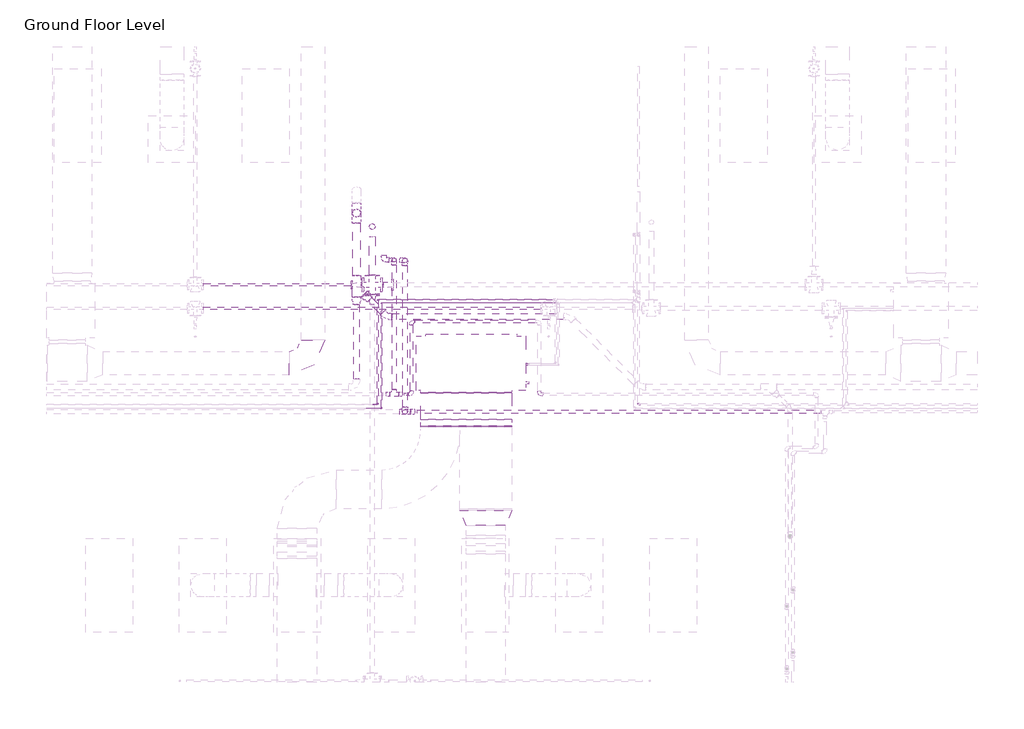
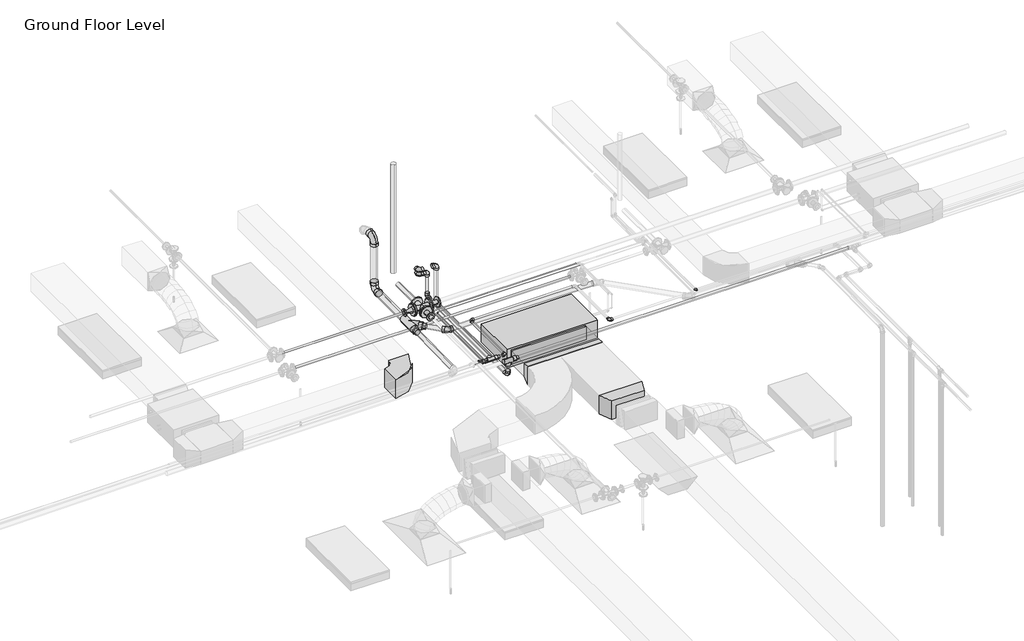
# One storey, part 52 of 74: 33 pipe fittings, 28 pipe segments, 4 duct fittings, 2 duct segments, 1 proxy.
"""IFC4 building model written with IfcOpenShell, lengths in millimetres."""

from ifc_helpers import new_model, si_unit, point, frame, frame_2d, origin, place, context, project, spatial, polyline, circle_curve, trimmed, segment, composite_curve, outline, extrude, transform, mapped, element, save
from components import fcu_daikin_iu_5a1bd61d, m_rectangular_elbow_radius_1_w_618da153, m_rectangular_transition_angle_45_degree_0ac038db, m_rectangular_transition_angle_45_degree_2e6f116c, m_rectangular_transition_angle_45_degree_bb273bf1, m_bend_pvc_sch_40_dwv_standard_bd716fa2, m_bend_pvc_sch_40_dwv_standard_fbb643c2, m_bend_pvc_sch_40_dwv_standard_bfb77a87, m_cross_flanged_cs_class_150_standard_72237f6b, m_elbow_generic_standard_a088f956, m_elbow_generic_standard_2a704253, m_elbow_generic_standard_73005802, m_elbow_generic_standard_65e6739a, m_reducer_flanged_cs_class_150_standard_50093ec8, m_reducer_flanged_cs_class_150_standard_fb6801e4, m_reducer_flanged_cs_class_150_standard_aac2962f, m_reducer_pvc_sch_40_dwv_standard_93e50943, m_tee_pvc_sch_40_standard_4c5b037c, standard_517a5a8d, standard_cd25fed3, standard_5079833c, standard_bbae78af, standard_a995ec02, standard_57727813, standard_77f9104c, standard_102e5625

model = new_model("IFC4")

# Units and contexts
model_context = context("Model", 3, world=origin())
ifc_project = project(units=[si_unit("LENGTHUNIT", "METRE", prefix="MILLI")], contexts=[model_context])

# Site, building, storey
site = spatial("IfcSite", under=ifc_project)
building = spatial("IfcBuilding", under=site)
storey = spatial("IfcBuildingStorey", under=building, Name="Ground Floor Level", Elevation=900.0)

# Proxy
placement = place(None, origin())
fcu_daikin_iu_shape = fcu_daikin_iu_5a1bd61d(model_context)
element("IfcBuildingElementProxy", 1, Name="FCU-DAIKIN IU : 12.9kW, 230V/50Hz/1Ph", ObjectType="FCU-DAIKIN IU : 12.9kW, 230V/50Hz/1Ph", at=placement, inside=storey, context=model_context, shape_type="MappedRepresentation", body=[
    mapped(fcu_daikin_iu_shape, transform((-4715.1910789, 14069.8153534, 3984.0925223), x_axis=(1.0, 0.0, 0.0), y_axis=(0.0, 1.0, 0.0), z_axis=(0.0, 0.0, 1.0))),
])

# Duct fittings
m_rectangular_elbow_radius_1_w_shape = m_rectangular_elbow_radius_1_w_618da153(model_context)
element("IfcDuctFitting", 2, ObjectType="M_Rectangular Elbow - Radius : 1 W", at=placement, inside=storey, context=model_context, shape_type="MappedRepresentation", body=[
    mapped(m_rectangular_elbow_radius_1_w_shape, transform((-6737.2327605, 14069.8153534, 4075.2872564), x_axis=(1.0, 0.0, 0.0), y_axis=(0.0, 1.0, 0.0), z_axis=(0.0, 0.0, 1.0))),
])
m_rectangular_transition_angle_45_degree_shape = m_rectangular_transition_angle_45_degree_0ac038db(model_context)
element("IfcDuctFitting", 3, ObjectType="M_Rectangular Transition - Angle : 45 Degree", at=placement, inside=storey, context=model_context, shape_type="MappedRepresentation", body=[
    mapped(m_rectangular_transition_angle_45_degree_shape, transform((-4528.6910789, 12192.414605, 4107.133239), x_axis=(0.0, -0.9999999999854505, 5.394345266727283e-06), y_axis=(1.0, 0.0, 0.0), z_axis=(0.0, 5.394345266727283e-06, 0.9999999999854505))),
])
m_rectangular_transition_angle_45_degree_2_shape = m_rectangular_transition_angle_45_degree_2e6f116c(model_context)
element("IfcDuctFitting", 4, ObjectType="M_Rectangular Transition - Angle : 45 Degree", at=placement, inside=storey, context=model_context, shape_type="MappedRepresentation", body=[
    mapped(m_rectangular_transition_angle_45_degree_2_shape, transform((-4778.6910789, 13694.4153534, 4150.0050223), x_axis=(0.0, -1.0, 0.0), y_axis=(1.0, 0.0, 0.0), z_axis=(0.0, 0.0, 1.0))),
])
m_rectangular_transition_angle_45_degree_3_shape = m_rectangular_transition_angle_45_degree_bb273bf1(model_context)
element("IfcDuctFitting", 5, ObjectType="M_Rectangular Transition - Angle : 45 Degree", at=placement, inside=storey, context=model_context, shape_type="MappedRepresentation", body=[
    mapped(m_rectangular_transition_angle_45_degree_3_shape, transform((-4778.6910789, 13354.5699657, 4150.0028095), x_axis=(0.0, -0.9999999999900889, -4.452214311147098e-06), y_axis=(1.0, 0.0, 0.0), z_axis=(0.0, -4.452214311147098e-06, 0.9999999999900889))),
])

# Duct segments
element("IfcDuctSegment", 6, ObjectType="Radius Elbows / Taps", at=placement, inside=storey, context=model_context, shape_type="SweptSolid", body=[
    extrude(outline(polyline([(-5359.6910789, 13694.083399), (-4197.6910789, 13694.083399), (-4197.6910789, 13354.5699657), (-5359.6910789, 13354.5699657), (-5359.6910789, 13694.083399)])), frame((0.0, 0.0, 4043.0050223), z_axis=(0.0, 0.0, 1.0), x_axis=(1.0, 0.0, 0.0)), (0.0, 0.0, 1.0), 214.0),
])
element("IfcDuctSegment", 7, ObjectType="Radius Elbows / Taps", at=placement, inside=storey, context=model_context, shape_type="SweptSolid", body=[
    extrude(outline(polyline([(0.0, -1162.0), (0.0, 0.0), (9.0109299, 0.0), (9.0109299, -1162.0), (0.0, -1162.0)])), frame((-5359.6910789, 13259.4862791, 3957.1425391), z_axis=(0.0, -0.00047283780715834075, 0.9999998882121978), x_axis=(0.0, 0.9999998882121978, 0.00047283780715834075)), (0.0, 0.0, 1.0), 300.0),
])

# Pipe fittings
m_bend_pvc_sch_40_dwv_standard_shape = m_bend_pvc_sch_40_dwv_standard_bd716fa2(model_context)
element("IfcPipeFitting", 8, ObjectType="M_Bend - PVC - Sch 40 - DWV : Standard", at=placement, inside=storey, context=model_context, shape_type="MappedRepresentation", body=[
    mapped(m_bend_pvc_sch_40_dwv_standard_shape, transform((-6179.1770144, 15988.8715849, 4179.1289206), x_axis=(0.0, 0.9999500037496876, 0.009999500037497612), y_axis=(0.0, -0.009999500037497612, 0.9999500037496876), z_axis=(1.0, 0.0, 0.0))),
])
m_bend_pvc_sch_40_dwv_standard_2_shape = m_bend_pvc_sch_40_dwv_standard_fbb643c2(model_context)
element("IfcPipeFitting", 9, ObjectType="M_Bend - PVC - Sch 40 - DWV : Standard", at=placement, inside=storey, context=model_context, shape_type="MappedRepresentation", body=[
    mapped(m_bend_pvc_sch_40_dwv_standard_2_shape, transform((-5796.171114, 14668.7334723, 4163.0722858), x_axis=(0.7069124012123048, -0.7071711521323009, -0.013557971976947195), y_axis=(0.7072304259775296, 0.7069828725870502, -0.0005851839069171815), z_axis=(0.009999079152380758, -0.00917493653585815, 0.999907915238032))),
])
m_bend_pvc_sch_40_dwv_standard_3_shape = m_bend_pvc_sch_40_dwv_standard_bfb77a87(model_context)
element("IfcPipeFitting", 10, ObjectType="M_Bend - PVC - Sch 40 - DWV : Standard", at=placement, inside=storey, context=model_context, shape_type="MappedRepresentation", body=[
    mapped(m_bend_pvc_sch_40_dwv_standard_3_shape, transform((-6179.1776394, 15988.874234, 5027.5258857), x_axis=(-4.882554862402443e-06, 2.069385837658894e-05, 0.9999999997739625), y_axis=(4.892659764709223e-08, 0.9999999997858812, -2.0693858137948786e-05), z_axis=(-0.9999999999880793, 4.8825558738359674e-08, -4.882555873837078e-06))),
])
m_cross_flanged_cs_class_150_standard_shape = m_cross_flanged_cs_class_150_standard_72237f6b(model_context)
element("IfcPipeFitting", 11, ObjectType="M_Cross - Flanged - CS - Class 150 : Standard", at=placement, inside=storey, context=model_context, shape_type="MappedRepresentation", body=[
    mapped(m_cross_flanged_cs_class_150_standard_shape, transform((-5978.130502, 15073.2009828, 4360.0), x_axis=(-1.0, 0.0, 0.0), y_axis=(0.0, -1.0, 0.0), z_axis=(0.0, 0.0, 1.0))),
])
m_elbow_generic_standard_shape = m_elbow_generic_standard_a088f956(model_context)
element("IfcPipeFitting", 12, ObjectType="M_Elbow - Generic : Standard", at=placement, inside=storey, context=model_context, shape_type="MappedRepresentation", body=[
    mapped(m_elbow_generic_standard_shape, transform((-5907.05663, 14885.6024145, 4380.0), x_axis=(-1.0, 0.0, 0.0), y_axis=(0.0, -1.0, 0.0), z_axis=(0.0, 0.0, 1.0))),
])
element("IfcPipeFitting", 13, ObjectType="M_Elbow - Generic : Standard", at=placement, inside=storey, context=model_context, shape_type="MappedRepresentation", body=[
    mapped(m_elbow_generic_standard_shape, transform((-5907.05663, 13545.2153534, 4380.0), x_axis=(1.0, 0.0, 0.0), y_axis=(0.0, 1.0, 0.0), z_axis=(0.0, 0.0, 1.0))),
])
m_elbow_generic_standard_2_shape = m_elbow_generic_standard_2a704253(model_context)
element("IfcPipeFitting", 14, ObjectType="M_Elbow - Generic : Standard", at=placement, inside=storey, context=model_context, shape_type="MappedRepresentation", body=[
    mapped(m_elbow_generic_standard_2_shape, transform((-5859.8931643, 14844.4055749, 4365.0), x_axis=(-1.0, 0.0, 0.0), y_axis=(0.0, -1.0, 0.0), z_axis=(0.0, 0.0, 1.0))),
])
element("IfcPipeFitting", 15, ObjectType="M_Elbow - Generic : Standard", at=placement, inside=storey, context=model_context, shape_type="MappedRepresentation", body=[
    mapped(m_elbow_generic_standard_2_shape, transform((-5859.8931643, 13494.0185138, 4393.0), x_axis=(1.0, 0.0, 0.0), y_axis=(0.0, 0.0, -1.0), z_axis=(0.0, 1.0, 0.0))),
])
element("IfcPipeFitting", 16, ObjectType="M_Elbow - Generic : Standard", at=placement, inside=storey, context=model_context, shape_type="MappedRepresentation", body=[
    mapped(m_elbow_generic_standard_2_shape, transform((-5859.8931643, 13494.0185138, 4365.0), x_axis=(0.0, -1.0, 0.0), y_axis=(0.0, 0.0, 1.0), z_axis=(-1.0, 0.0, 0.0))),
])
m_elbow_generic_standard_3_shape = m_elbow_generic_standard_73005802(model_context)
element("IfcPipeFitting", 17, ObjectType="M_Elbow - Generic : Standard", at=placement, inside=storey, context=model_context, shape_type="MappedRepresentation", body=[
    mapped(m_elbow_generic_standard_3_shape, transform((-2579.6952605, 13545.2153534, 4380.0), x_axis=(0.0, -1.0, 0.0), y_axis=(1.0, 0.0, 0.0), z_axis=(0.0, 0.0, 1.0))),
])
m_elbow_generic_standard_4_shape = m_elbow_generic_standard_65e6739a(model_context)
element("IfcPipeFitting", 18, ObjectType="M_Elbow - Generic : Standard", at=placement, inside=storey, context=model_context, shape_type="MappedRepresentation", body=[
    mapped(m_elbow_generic_standard_4_shape, transform((-5961.4046602, 13545.2153534, 4392.0), x_axis=(1.0, 0.0, 0.0), y_axis=(0.0, 0.0, -1.0), z_axis=(0.0, 1.0, 0.0))),
])
element("IfcPipeFitting", 19, ObjectType="M_Elbow - Generic : Standard", at=placement, inside=storey, context=model_context, shape_type="MappedRepresentation", body=[
    mapped(m_elbow_generic_standard_4_shape, transform((-5949.4046602, 13545.2153534, 4380.0), x_axis=(0.7071067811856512, 0.0, -0.7071067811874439), y_axis=(0.7071067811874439, 0.0, 0.7071067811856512), z_axis=(0.0, -1.0, 0.0))),
])
m_reducer_flanged_cs_class_150_standard_shape = m_reducer_flanged_cs_class_150_standard_50093ec8(model_context)
element("IfcPipeFitting", 20, ObjectType="M_Reducer - Flanged - CS - Class 150 : Standard", at=placement, inside=storey, context=model_context, shape_type="MappedRepresentation", body=[
    mapped(m_reducer_flanged_cs_class_150_standard_shape, transform((-5851.130502, 15073.2009828, 4360.0), x_axis=(1.0, 0.0, 0.0), y_axis=(0.0, 1.0, 0.0), z_axis=(0.0, 0.0, 1.0))),
])
m_reducer_flanged_cs_class_150_standard_2_shape = m_reducer_flanged_cs_class_150_standard_fb6801e4(model_context)
element("IfcPipeFitting", 21, ObjectType="M_Reducer - Flanged - CS - Class 150 : Standard", at=placement, inside=storey, context=model_context, shape_type="MappedRepresentation", body=[
    mapped(m_reducer_flanged_cs_class_150_standard_2_shape, transform((-6105.130502, 15073.2009828, 4360.0), x_axis=(-1.0, 0.0, 0.0), y_axis=(0.0, -1.0, 0.0), z_axis=(0.0, 0.0, 1.0))),
])
m_reducer_flanged_cs_class_150_standard_3_shape = m_reducer_flanged_cs_class_150_standard_aac2962f(model_context)
element("IfcPipeFitting", 22, ObjectType="M_Reducer - Flanged - CS - Class 150 : Standard", at=placement, inside=storey, context=model_context, shape_type="MappedRepresentation", body=[
    mapped(m_reducer_flanged_cs_class_150_standard_3_shape, transform((-5978.130502, 14946.2009828, 4360.0), x_axis=(0.0, -1.0, 0.0), y_axis=(1.0, 0.0, 0.0), z_axis=(0.0, 0.0, 1.0))),
])
m_reducer_pvc_sch_40_dwv_standard_shape = m_reducer_pvc_sch_40_dwv_standard_93e50943(model_context)
element("IfcPipeFitting", 23, ObjectType="M_Reducer - PVC - Sch 40 - DWV : Standard", at=placement, inside=storey, context=model_context, shape_type="MappedRepresentation", body=[
    mapped(m_reducer_pvc_sch_40_dwv_standard_shape, transform((-6179.1770144, 14819.9179815, 4167.4393846), x_axis=(0.0, 0.9999500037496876, 0.009999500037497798), y_axis=(-1.0000000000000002, 0.0, 0.0), z_axis=(0.0, -0.009999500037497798, 0.9999500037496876))),
])
element("IfcPipeFitting", 24, ObjectType="M_Reducer - PVC - Sch 40 - DWV : Standard", at=placement, inside=storey, context=model_context, shape_type="MappedRepresentation", body=[
    mapped(m_reducer_pvc_sch_40_dwv_standard_shape, transform((-6010.7168995, 14883.3577879, 4167.1870895), x_axis=(-0.7069124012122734, 0.7071711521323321, 0.01355797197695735), y_axis=(-0.7072361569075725, -0.7069773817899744, -2.1519182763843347e-08), z_axis=(0.00958516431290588, -0.009588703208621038, 0.9999080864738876))),
])
m_tee_pvc_sch_40_standard_shape = m_tee_pvc_sch_40_standard_4c5b037c(model_context)
element("IfcPipeFitting", 25, ObjectType="M_Tee - PVC - Sch 40 : Standard", at=placement, inside=storey, context=model_context, shape_type="MappedRepresentation", body=[
    mapped(m_tee_pvc_sch_40_standard_shape, transform((-6179.1770144, 15051.7796868, 4169.7580016), x_axis=(0.0, 0.9999500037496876, 0.009999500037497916), y_axis=(-0.9999972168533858, -2.3591797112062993e-05, 0.0023591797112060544), z_axis=(0.0023592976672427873, -0.009999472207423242, 0.9999472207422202))),
])
standard_shape = standard_517a5a8d(model_context)
element("IfcPipeFitting", 26, ObjectType="M_Elbow - CPVC - Sch 40 : Standard", at=placement, inside=storey, context=model_context, shape_type="MappedRepresentation", body=[
    mapped(standard_shape, transform((-5476.1871015, 13675.2153534, 4250.0), x_axis=(1.0, 0.0, 0.0), y_axis=(0.0, 1.0, 0.0), z_axis=(0.0, 0.0, 1.0))),
])
element("IfcPipeFitting", 27, ObjectType="M_Elbow - CPVC - Sch 40 : Standard", at=placement, inside=storey, context=model_context, shape_type="MappedRepresentation", body=[
    mapped(standard_shape, transform((-5476.1871015, 14603.43487, 4250.0), x_axis=(-1.0, 0.0, 0.0), y_axis=(0.0, -1.0, 0.0), z_axis=(0.0, 0.0, 1.0))),
])
element("IfcPipeFitting", 28, ObjectType="M_Elbow - CPVC - Sch 40 : Standard", at=placement, inside=storey, context=model_context, shape_type="MappedRepresentation", body=[
    mapped(standard_shape, transform((-3846.4489567, 13675.2153534, 4250.0), x_axis=(0.0, -1.0, 0.0), y_axis=(1.0, 0.0, 0.0), z_axis=(0.0, 0.0, 1.0))),
])
standard_2_shape = standard_cd25fed3(model_context)
element("IfcPipeFitting", 29, ObjectType="M_Tee - CPVC - Sch 40 : Standard", at=placement, inside=storey, context=model_context, shape_type="MappedRepresentation", body=[
    mapped(standard_2_shape, transform((-5560.8713756, 13449.9865561, 4315.0), x_axis=(1.0, 0.0, 0.0), y_axis=(0.0, 0.0, 1.0), z_axis=(0.0, -1.0, 0.0))),
])
standard_3_shape = standard_5079833c(model_context)
element("IfcPipeFitting", 30, ObjectType="M_Coupling Reducing - CPVC - Sch 40 : Standard", at=placement, inside=storey, context=model_context, shape_type="MappedRepresentation", body=[
    mapped(standard_3_shape, transform((-5486.9943636, 13449.9865561, 4315.0), x_axis=(1.0, 0.0, 0.0), y_axis=(0.0, 1.0, 0.0), z_axis=(0.0, 0.0, 1.0))),
])
standard_4_shape = standard_bbae78af(model_context)
element("IfcPipeFitting", 31, ObjectType="M_Tee - CPVC - Sch 40 : Standard", at=placement, inside=storey, context=model_context, shape_type="MappedRepresentation", body=[
    mapped(standard_4_shape, transform((-5698.3060147, 13675.2153534, 4250.0), x_axis=(1.0, 0.0, 0.0), y_axis=(0.0, -1.0, 0.0), z_axis=(0.0, 0.0, -1.0))),
])
standard_5_shape = standard_a995ec02(model_context)
element("IfcPipeFitting", 32, ObjectType="M_Coupling Reducing - CPVC - Sch 40 : Standard", at=placement, inside=storey, context=model_context, shape_type="MappedRepresentation", body=[
    mapped(standard_5_shape, transform((-5757.0562147, 13675.2153534, 4250.0), x_axis=(-1.0, 0.0, 0.0), y_axis=(0.0, -1.0, 0.0), z_axis=(0.0, 0.0, 1.0))),
])
standard_6_shape = standard_57727813(model_context)
element("IfcPipeFitting", 33, ObjectType="M_Elbow - CPVC - Sch 40 : Standard", at=placement, inside=storey, context=model_context, shape_type="MappedRepresentation", body=[
    mapped(standard_6_shape, transform((-5560.8713756, 15385.5016509, 4719.8375), x_axis=(0.0, 0.0, 1.0), y_axis=(-0.997564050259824, 0.06975647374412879, 0.0), z_axis=(-0.06975647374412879, -0.997564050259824, 0.0))),
])
element("IfcPipeFitting", 34, ObjectType="M_Elbow - CPVC - Sch 40 : Standard", at=placement, inside=storey, context=model_context, shape_type="MappedRepresentation", body=[
    mapped(standard_6_shape, transform((-5831.0029399, 15389.9865561, 4719.8375), x_axis=(0.0, -1.0, 0.0), y_axis=(1.0, 0.0, 0.0), z_axis=(0.0, 0.0, 1.0))),
])
element("IfcPipeFitting", 35, ObjectType="M_Elbow - CPVC - Sch 40 : Standard", at=placement, inside=storey, context=model_context, shape_type="MappedRepresentation", body=[
    mapped(standard_6_shape, transform((-5560.8713756, 15385.5016509, 4090.0), x_axis=(0.0, 0.0, -1.0), y_axis=(0.0, -1.0, 0.0), z_axis=(-1.0, 0.0, 0.0))),
])
element("IfcPipeFitting", 36, ObjectType="M_Elbow - CPVC - Sch 40 : Standard", at=placement, inside=storey, context=model_context, shape_type="MappedRepresentation", body=[
    mapped(standard_6_shape, transform((-5560.8713756, 13449.9865561, 4090.0), x_axis=(0.0, 0.0, -1.0), y_axis=(0.0, 1.0, 0.0), z_axis=(1.0, 0.0, 0.0))),
])
standard_7_shape = standard_77f9104c(model_context)
element("IfcPipeFitting", 37, ObjectType="M_Coupling Reducing - CPVC - Sch 40 : Standard", at=placement, inside=storey, context=model_context, shape_type="MappedRepresentation", body=[
    mapped(standard_7_shape, transform((-5639.5558147, 13675.2153534, 4250.0), x_axis=(1.0, 0.0, 0.0), y_axis=(0.0, 1.0, 0.0), z_axis=(0.0, 0.0, 1.0))),
])
standard_8_shape = standard_102e5625(model_context)
element("IfcPipeFitting", 38, ObjectType="M_Elbow - CPVC - Sch 40 : Standard", at=placement, inside=storey, context=model_context, shape_type="MappedRepresentation", body=[
    mapped(standard_8_shape, transform((-5698.3060147, 15389.9865561, 4250.0), x_axis=(0.0, 1.0, 0.0), y_axis=(0.0, 0.0, 1.0), z_axis=(1.0, 0.0, 0.0))),
])
element("IfcPipeFitting", 39, ObjectType="M_Elbow - CPVC - Sch 40 : Standard", at=placement, inside=storey, context=model_context, shape_type="MappedRepresentation", body=[
    mapped(standard_8_shape, transform((-5698.3060147, 15389.9865561, 4650.0), x_axis=(0.0, 0.0, 1.0), y_axis=(-1.0, 0.0, 0.0), z_axis=(0.0, -1.0, 0.0))),
])
element("IfcPipeFitting", 40, ObjectType="M_Elbow - CPVC - Sch 40 : Standard", at=placement, inside=storey, context=model_context, shape_type="MappedRepresentation", body=[
    mapped(standard_8_shape, transform((-5831.0029399, 15389.9865561, 4650.0), x_axis=(0.0, -1.0, 0.0), y_axis=(1.0, 0.0, 0.0), z_axis=(0.0, 0.0, 1.0))),
])

# Pipe segments
element("IfcPipeSegment", 41, ObjectType="CPVC", at=placement, inside=storey, context=model_context, shape_type="SweptSolid", body=[
    extrude(outline(composite_curve([segment(trimmed(circle_curve(frame_2d((13449.9865561, 4315.0)), 30.1625), [point((13419.8240561, 4315.0))], [point((13449.9865561, 4345.1625))], False, "CARTESIAN"), True, "CONTINUOUS"), segment(trimmed(circle_curve(frame_2d((13449.9865561, 4315.0)), 30.1625), [point((13449.9865561, 4345.1625))], [point((13480.1490561, 4315.0))], False, "CARTESIAN"), True, "CONTINUOUS"), segment(trimmed(circle_curve(frame_2d((13449.9865561, 4315.0)), 30.1625), [point((13480.1490561, 4315.0))], [point((13449.9865561, 4284.8375))], False, "CARTESIAN"), True, "CONTINUOUS"), segment(trimmed(circle_curve(frame_2d((13449.9865561, 4315.0)), 30.1625), [point((13449.9865561, 4284.8375))], [point((13419.8240561, 4315.0))], False, "CARTESIAN"), True, "CONTINUOUS")], self_intersect=False)), frame((-5494.1963756, 0.0, 0.0), z_axis=(1.0, 0.0, 0.0), x_axis=(0.0, 1.0, 0.0)), (0.0, 0.0, 1.0), 7.202012),
])
element("IfcPipeSegment", 42, ObjectType="CPVC", at=placement, inside=storey, context=model_context, shape_type="SweptSolid", body=[
    extrude(outline(composite_curve([segment(trimmed(circle_curve(frame_2d((4090.0, -5560.8713756)), 30.1625), [point((4090.0, -5591.0338756))], [point((4059.8375, -5560.8713756))], False, "CARTESIAN"), True, "CONTINUOUS"), segment(trimmed(circle_curve(frame_2d((4090.0, -5560.8713756)), 30.1625), [point((4059.8375, -5560.8713756))], [point((4090.0, -5530.7088756))], False, "CARTESIAN"), True, "CONTINUOUS"), segment(trimmed(circle_curve(frame_2d((4090.0, -5560.8713756)), 30.1625), [point((4090.0, -5530.7088756))], [point((4120.1625, -5560.8713756))], False, "CARTESIAN"), True, "CONTINUOUS"), segment(trimmed(circle_curve(frame_2d((4090.0, -5560.8713756)), 30.1625), [point((4120.1625, -5560.8713756))], [point((4090.0, -5591.0338756))], False, "CARTESIAN"), True, "CONTINUOUS")], self_intersect=False)), frame((0.0, 13514.2803061, 0.0), z_axis=(0.0, 1.0, 0.0), x_axis=(0.0, 0.0, 1.0)), (0.0, 0.0, 1.0), 1806.9275947),
])
element("IfcPipeSegment", 43, ObjectType="CPVC", at=placement, inside=storey, context=model_context, shape_type="SweptSolid", body=[
    extrude(outline(composite_curve([segment(trimmed(circle_curve(frame_2d((4250.0, -5698.3060147)), 24.13), [point((4250.0, -5674.1760147))], [point((4274.13, -5698.3060147))], False, "CARTESIAN"), True, "CONTINUOUS"), segment(trimmed(circle_curve(frame_2d((4250.0, -5698.3060147)), 24.13), [point((4274.13, -5698.3060147))], [point((4250.0, -5722.4360147))], False, "CARTESIAN"), True, "CONTINUOUS"), segment(trimmed(circle_curve(frame_2d((4250.0, -5698.3060147)), 24.13), [point((4250.0, -5722.4360147))], [point((4225.87, -5698.3060147))], False, "CARTESIAN"), True, "CONTINUOUS"), segment(trimmed(circle_curve(frame_2d((4250.0, -5698.3060147)), 24.13), [point((4225.87, -5698.3060147))], [point((4250.0, -5674.1760147))], False, "CARTESIAN"), True, "CONTINUOUS")], self_intersect=False)), frame((0.0, 13733.9655534, 0.0), z_axis=(0.0, 1.0, 0.0), x_axis=(0.0, 0.0, 1.0)), (0.0, 0.0, 1.0), 1593.3020527),
])
element("IfcPipeSegment", 44, ObjectType="CPVC", at=placement, inside=storey, context=model_context, shape_type="SweptSolid", body=[
    extrude(outline(composite_curve([segment(trimmed(circle_curve(frame_2d((13449.9865561, 4315.0)), 21.082), [point((13471.0685561, 4315.0))], [point((13449.9865561, 4293.918))], False, "CARTESIAN"), True, "CONTINUOUS"), segment(trimmed(circle_curve(frame_2d((13449.9865561, 4315.0)), 21.082), [point((13449.9865561, 4293.918))], [point((13428.9045561, 4315.0))], False, "CARTESIAN"), True, "CONTINUOUS"), segment(trimmed(circle_curve(frame_2d((13449.9865561, 4315.0)), 21.082), [point((13428.9045561, 4315.0))], [point((13449.9865561, 4336.082))], False, "CARTESIAN"), True, "CONTINUOUS"), segment(trimmed(circle_curve(frame_2d((13449.9865561, 4315.0)), 21.082), [point((13449.9865561, 4336.082))], [point((13471.0685561, 4315.0))], False, "CARTESIAN"), True, "CONTINUOUS")], self_intersect=False)), frame((-5401.6556136, 0.0, 0.0), z_axis=(1.0, 0.0, 0.0), x_axis=(0.0, 1.0, 0.0)), (0.0, 0.0, 1.0), 5150.4478531),
])
element("IfcPipeSegment", 45, ObjectType="CPVC", at=placement, inside=storey, context=model_context, shape_type="SweptSolid", body=[
    extrude(outline(composite_curve([segment(trimmed(circle_curve(frame_2d((-5698.3060147, 15389.9865561)), 24.13), [point((-5722.4360147, 15389.9865561))], [point((-5698.3060147, 15414.1165561))], False, "CARTESIAN"), True, "CONTINUOUS"), segment(trimmed(circle_curve(frame_2d((-5698.3060147, 15389.9865561)), 24.13), [point((-5698.3060147, 15414.1165561))], [point((-5674.1760147, 15389.9865561))], False, "CARTESIAN"), True, "CONTINUOUS"), segment(trimmed(circle_curve(frame_2d((-5698.3060147, 15389.9865561)), 24.13), [point((-5674.1760147, 15389.9865561))], [point((-5698.3060147, 15365.8565561))], False, "CARTESIAN"), True, "CONTINUOUS"), segment(trimmed(circle_curve(frame_2d((-5698.3060147, 15389.9865561)), 24.13), [point((-5698.3060147, 15365.8565561))], [point((-5722.4360147, 15389.9865561))], False, "CARTESIAN"), True, "CONTINUOUS")], self_intersect=False)), frame((0.0, 0.0, 4312.71895), z_axis=(0.0, 0.0, 1.0), x_axis=(1.0, 0.0, 0.0)), (0.0, 0.0, 1.0), 274.5621),
])
element("IfcPipeSegment", 46, ObjectType="CPVC", at=placement, inside=storey, context=model_context, shape_type="SweptSolid", body=[
    extrude(outline(composite_curve([segment(trimmed(circle_curve(frame_2d((-5560.8713756, 15385.5016509)), 30.1625), [point((-5591.0338756, 15385.5016509))], [point((-5560.8713756, 15415.6641509))], False, "CARTESIAN"), True, "CONTINUOUS"), segment(trimmed(circle_curve(frame_2d((-5560.8713756, 15385.5016509)), 30.1625), [point((-5560.8713756, 15415.6641509))], [point((-5530.7088756, 15385.5016509))], False, "CARTESIAN"), True, "CONTINUOUS"), segment(trimmed(circle_curve(frame_2d((-5560.8713756, 15385.5016509)), 30.1625), [point((-5530.7088756, 15385.5016509))], [point((-5560.8713756, 15355.3391509))], False, "CARTESIAN"), True, "CONTINUOUS"), segment(trimmed(circle_curve(frame_2d((-5560.8713756, 15385.5016509)), 30.1625), [point((-5560.8713756, 15355.3391509))], [point((-5591.0338756, 15385.5016509))], False, "CARTESIAN"), True, "CONTINUOUS")], self_intersect=False)), frame((0.0, 0.0, 4154.29375), z_axis=(0.0, 0.0, 1.0), x_axis=(1.0, 0.0, 0.0)), (0.0, 0.0, 1.0), 501.25),
])
element("IfcPipeSegment", 47, ObjectType="CPVC", at=placement, inside=storey, context=model_context, shape_type="SweptSolid", body=[
    extrude(outline(composite_curve([segment(trimmed(circle_curve(frame_2d((13675.2153534, 4250.0)), 16.7005), [point((13658.5148534, 4250.0))], [point((13675.2153534, 4266.7005))], False, "CARTESIAN"), True, "CONTINUOUS"), segment(trimmed(circle_curve(frame_2d((13675.2153534, 4250.0)), 16.7005), [point((13675.2153534, 4266.7005))], [point((13691.9158534, 4250.0))], False, "CARTESIAN"), True, "CONTINUOUS"), segment(trimmed(circle_curve(frame_2d((13675.2153534, 4250.0)), 16.7005), [point((13691.9158534, 4250.0))], [point((13675.2153534, 4233.2995))], False, "CARTESIAN"), True, "CONTINUOUS"), segment(trimmed(circle_curve(frame_2d((13675.2153534, 4250.0)), 16.7005), [point((13675.2153534, 4233.2995))], [point((13658.5148534, 4250.0))], False, "CARTESIAN"), True, "CONTINUOUS")], self_intersect=False)), frame((-5567.3569397, 0.0, 0.0), z_axis=(1.0, 0.0, 0.0), x_axis=(0.0, 1.0, 0.0)), (0.0, 0.0, 1.0), 47.9072882),
])
element("IfcPipeSegment", 48, ObjectType="CPVC", at=placement, inside=storey, context=model_context, shape_type="SweptSolid", body=[
    extrude(outline(composite_curve([segment(trimmed(circle_curve(frame_2d((4250.0, -5476.1871015)), 16.7005), [point((4250.0, -5459.4866015))], [point((4266.7005, -5476.1871015))], False, "CARTESIAN"), True, "CONTINUOUS"), segment(trimmed(circle_curve(frame_2d((4250.0, -5476.1871015)), 16.7005), [point((4266.7005, -5476.1871015))], [point((4250.0, -5492.8876015))], False, "CARTESIAN"), True, "CONTINUOUS"), segment(trimmed(circle_curve(frame_2d((4250.0, -5476.1871015)), 16.7005), [point((4250.0, -5492.8876015))], [point((4233.2995, -5476.1871015))], False, "CARTESIAN"), True, "CONTINUOUS"), segment(trimmed(circle_curve(frame_2d((4250.0, -5476.1871015)), 16.7005), [point((4233.2995, -5476.1871015))], [point((4250.0, -5459.4866015))], False, "CARTESIAN"), True, "CONTINUOUS")], self_intersect=False)), frame((0.0, 13718.4779034, 0.0), z_axis=(0.0, 1.0, 0.0), x_axis=(0.0, 0.0, 1.0)), (0.0, 0.0, 1.0), 841.6944166),
])
element("IfcPipeSegment", 49, ObjectType="CPVC", at=placement, inside=storey, context=model_context, shape_type="SweptSolid", body=[
    extrude(outline(composite_curve([segment(trimmed(circle_curve(frame_2d((14603.43487, 4250.0)), 16.7005), [point((14620.13537, 4250.0))], [point((14603.43487, 4233.2995))], False, "CARTESIAN"), True, "CONTINUOUS"), segment(trimmed(circle_curve(frame_2d((14603.43487, 4250.0)), 16.7005), [point((14603.43487, 4233.2995))], [point((14586.73437, 4250.0))], False, "CARTESIAN"), True, "CONTINUOUS"), segment(trimmed(circle_curve(frame_2d((14603.43487, 4250.0)), 16.7005), [point((14586.73437, 4250.0))], [point((14603.43487, 4266.7005))], False, "CARTESIAN"), True, "CONTINUOUS"), segment(trimmed(circle_curve(frame_2d((14603.43487, 4250.0)), 16.7005), [point((14603.43487, 4266.7005))], [point((14620.13537, 4250.0))], False, "CARTESIAN"), True, "CONTINUOUS")], self_intersect=False)), frame((-5432.9245515, 0.0, 0.0), z_axis=(1.0, 0.0, 0.0), x_axis=(0.0, 1.0, 0.0)), (0.0, 0.0, 1.0), 1543.2130448),
])
element("IfcPipeSegment", 50, ObjectType="CPVC", at=placement, inside=storey, context=model_context, shape_type="SweptSolid", body=[
    extrude(outline(composite_curve([segment(trimmed(circle_curve(frame_2d((-5560.8713756, 13449.9865561)), 30.1625), [point((-5530.7088756, 13449.9865561))], [point((-5560.8713756, 13419.8240561))], False, "CARTESIAN"), True, "CONTINUOUS"), segment(trimmed(circle_curve(frame_2d((-5560.8713756, 13449.9865561)), 30.1625), [point((-5560.8713756, 13419.8240561))], [point((-5591.0338756, 13449.9865561))], False, "CARTESIAN"), True, "CONTINUOUS"), segment(trimmed(circle_curve(frame_2d((-5560.8713756, 13449.9865561)), 30.1625), [point((-5591.0338756, 13449.9865561))], [point((-5560.8713756, 13480.1490561))], False, "CARTESIAN"), True, "CONTINUOUS"), segment(trimmed(circle_curve(frame_2d((-5560.8713756, 13449.9865561)), 30.1625), [point((-5560.8713756, 13480.1490561))], [point((-5530.7088756, 13449.9865561))], False, "CARTESIAN"), True, "CONTINUOUS")], self_intersect=False)), frame((0.0, 0.0, 4154.29375), z_axis=(0.0, 0.0, 1.0), x_axis=(1.0, 0.0, 0.0)), (0.0, 0.0, 1.0), 94.03125),
])
element("IfcPipeSegment", 51, ObjectType="Copper", at=placement, inside=storey, context=model_context, shape_type="SweptSolid", body=[
    extrude(outline(composite_curve([segment(trimmed(circle_curve(frame_2d((13494.0185138, 4393.0)), 3.35), [point((13490.6685138, 4393.0))], [point((13494.0185138, 4396.35))], False, "CARTESIAN"), True, "CONTINUOUS"), segment(trimmed(circle_curve(frame_2d((13494.0185138, 4393.0)), 3.35), [point((13494.0185138, 4396.35))], [point((13497.3685138, 4393.0))], False, "CARTESIAN"), True, "CONTINUOUS"), segment(trimmed(circle_curve(frame_2d((13494.0185138, 4393.0)), 3.35), [point((13497.3685138, 4393.0))], [point((13494.0185138, 4389.65))], False, "CARTESIAN"), True, "CONTINUOUS"), segment(trimmed(circle_curve(frame_2d((13494.0185138, 4393.0)), 3.35), [point((13494.0185138, 4389.65))], [point((13490.6685138, 4393.0))], False, "CARTESIAN"), True, "CONTINUOUS")], self_intersect=False)), frame((-6053.203103, 0.0, 0.0), z_axis=(1.0, 0.0, 0.0), x_axis=(0.0, 1.0, 0.0)), (0.0, 0.0, 1.0), 182.1724387),
])
element("IfcPipeSegment", 52, ObjectType="Copper", at=placement, inside=storey, context=model_context, shape_type="SweptSolid", body=[
    extrude(outline(composite_curve([segment(trimmed(circle_curve(frame_2d((4380.0, -5907.05663)), 6.5), [point((4380.0, -5900.55663))], [point((4386.5, -5907.05663))], False, "CARTESIAN"), True, "CONTINUOUS"), segment(trimmed(circle_curve(frame_2d((4380.0, -5907.05663)), 6.5), [point((4386.5, -5907.05663))], [point((4380.0, -5913.55663))], False, "CARTESIAN"), True, "CONTINUOUS"), segment(trimmed(circle_curve(frame_2d((4380.0, -5907.05663)), 6.5), [point((4380.0, -5913.55663))], [point((4373.5, -5907.05663))], False, "CARTESIAN"), True, "CONTINUOUS"), segment(trimmed(circle_curve(frame_2d((4380.0, -5907.05663)), 6.5), [point((4373.5, -5907.05663))], [point((4380.0, -5900.55663))], False, "CARTESIAN"), True, "CONTINUOUS")], self_intersect=False)), frame((0.0, 13559.5028534, 0.0), z_axis=(0.0, 1.0, 0.0), x_axis=(0.0, 0.0, 1.0)), (0.0, 0.0, 1.0), 1311.8120611),
])
element("IfcPipeSegment", 53, ObjectType="Copper", at=placement, inside=storey, context=model_context, shape_type="SweptSolid", body=[
    extrude(outline(composite_curve([segment(trimmed(circle_curve(frame_2d((4365.0, -5859.8931643)), 3.35), [point((4365.0, -5856.5431643))], [point((4368.35, -5859.8931643))], False, "CARTESIAN"), True, "CONTINUOUS"), segment(trimmed(circle_curve(frame_2d((4365.0, -5859.8931643)), 3.35), [point((4368.35, -5859.8931643))], [point((4365.0, -5863.2431643))], False, "CARTESIAN"), True, "CONTINUOUS"), segment(trimmed(circle_curve(frame_2d((4365.0, -5859.8931643)), 3.35), [point((4365.0, -5863.2431643))], [point((4361.65, -5859.8931643))], False, "CARTESIAN"), True, "CONTINUOUS"), segment(trimmed(circle_curve(frame_2d((4365.0, -5859.8931643)), 3.35), [point((4361.65, -5859.8931643))], [point((4365.0, -5856.5431643))], False, "CARTESIAN"), True, "CONTINUOUS")], self_intersect=False)), frame((0.0, 13505.1560138, 0.0), z_axis=(0.0, 1.0, 0.0), x_axis=(0.0, 0.0, 1.0)), (0.0, 0.0, 1.0), 1328.1120611),
])
element("IfcPipeSegment", 54, ObjectType="Copper", at=placement, inside=storey, context=model_context, shape_type="SweptSolid", body=[
    extrude(outline(composite_curve([segment(trimmed(circle_curve(frame_2d((14885.6024145, 4380.0)), 6.5), [point((14879.1024145, 4380.0))], [point((14885.6024145, 4386.5))], False, "CARTESIAN"), True, "CONTINUOUS"), segment(trimmed(circle_curve(frame_2d((14885.6024145, 4380.0)), 6.5), [point((14885.6024145, 4386.5))], [point((14892.1024145, 4380.0))], False, "CARTESIAN"), True, "CONTINUOUS"), segment(trimmed(circle_curve(frame_2d((14885.6024145, 4380.0)), 6.5), [point((14892.1024145, 4380.0))], [point((14885.6024145, 4373.5))], False, "CARTESIAN"), True, "CONTINUOUS"), segment(trimmed(circle_curve(frame_2d((14885.6024145, 4380.0)), 6.5), [point((14885.6024145, 4373.5))], [point((14879.1024145, 4380.0))], False, "CARTESIAN"), True, "CONTINUOUS")], self_intersect=False)), frame((-5892.76913, 0.0, 0.0), z_axis=(1.0, 0.0, 0.0), x_axis=(0.0, 1.0, 0.0)), (0.0, 0.0, 1.0), 2228.690551),
])
element("IfcPipeSegment", 55, ObjectType="Copper", at=placement, inside=storey, context=model_context, shape_type="SweptSolid", body=[
    extrude(outline(composite_curve([segment(trimmed(circle_curve(frame_2d((14844.4055749, 4365.0)), 3.35), [point((14847.7555749, 4365.0))], [point((14844.4055749, 4361.65))], False, "CARTESIAN"), True, "CONTINUOUS"), segment(trimmed(circle_curve(frame_2d((14844.4055749, 4365.0)), 3.35), [point((14844.4055749, 4361.65))], [point((14841.0555749, 4365.0))], False, "CARTESIAN"), True, "CONTINUOUS"), segment(trimmed(circle_curve(frame_2d((14844.4055749, 4365.0)), 3.35), [point((14841.0555749, 4365.0))], [point((14844.4055749, 4368.35))], False, "CARTESIAN"), True, "CONTINUOUS"), segment(trimmed(circle_curve(frame_2d((14844.4055749, 4365.0)), 3.35), [point((14844.4055749, 4368.35))], [point((14847.7555749, 4365.0))], False, "CARTESIAN"), True, "CONTINUOUS")], self_intersect=False)), frame((-5848.7556643, 0.0, 0.0), z_axis=(1.0, 0.0, 0.0), x_axis=(0.0, 1.0, 0.0)), (0.0, 0.0, 1.0), 2229.4583352),
])
element("IfcPipeSegment", 56, ObjectType="Copper", at=placement, inside=storey, context=model_context, shape_type="SweptSolid", body=[
    extrude(outline(composite_curve([segment(trimmed(circle_curve(frame_2d((-5859.8931643, 13494.0185138)), 3.35), [point((-5856.5431643, 13494.0185138))], [point((-5859.8931643, 13490.6685138))], False, "CARTESIAN"), True, "CONTINUOUS"), segment(trimmed(circle_curve(frame_2d((-5859.8931643, 13494.0185138)), 3.35), [point((-5859.8931643, 13490.6685138))], [point((-5863.2431643, 13494.0185138))], False, "CARTESIAN"), True, "CONTINUOUS"), segment(trimmed(circle_curve(frame_2d((-5859.8931643, 13494.0185138)), 3.35), [point((-5863.2431643, 13494.0185138))], [point((-5859.8931643, 13497.3685138))], False, "CARTESIAN"), True, "CONTINUOUS"), segment(trimmed(circle_curve(frame_2d((-5859.8931643, 13494.0185138)), 3.35), [point((-5859.8931643, 13497.3685138))], [point((-5856.5431643, 13494.0185138))], False, "CARTESIAN"), True, "CONTINUOUS")], self_intersect=False)), frame((0.0, 0.0, 4376.1375), z_axis=(0.0, 0.0, 1.0), x_axis=(1.0, 0.0, 0.0)), (0.0, 0.0, 1.0), 5.725),
])
element("IfcPipeSegment", 57, ObjectType="Copper", at=placement, inside=storey, context=model_context, shape_type="SweptSolid", body=[
    extrude(outline(composite_curve([segment(trimmed(circle_curve(frame_2d((0.0, -6.5)), 6.5), [point((0.0, -13.0))], [point((-6.5, -6.5))], False, "CARTESIAN"), True, "CONTINUOUS"), segment(trimmed(circle_curve(frame_2d((0.0, -6.5)), 6.5), [point((-6.5, -6.5))], [point((0.0, 0.0))], False, "CARTESIAN"), True, "CONTINUOUS"), segment(trimmed(circle_curve(frame_2d((0.0, -6.5)), 6.5), [point((0.0, 0.0))], [point((6.5, -6.5))], False, "CARTESIAN"), True, "CONTINUOUS"), segment(trimmed(circle_curve(frame_2d((0.0, -6.5)), 6.5), [point((6.5, -6.5))], [point((0.0, -13.0))], False, "CARTESIAN"), True, "CONTINUOUS")], self_intersect=False)), frame((-5953.5893721, 13551.7153534, 4384.1847119), z_axis=(-0.7071067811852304, 0.0, 0.7071067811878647), x_axis=(0.7071067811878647, 0.0, 0.7071067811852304)), (0.0, 0.0, 1.0), 5.1344102),
])
element("IfcPipeSegment", 58, ObjectType="Copper", at=placement, inside=storey, context=model_context, shape_type="SweptSolid", body=[
    extrude(outline(composite_curve([segment(trimmed(circle_curve(frame_2d((13545.2153534, 4380.0)), 6.5), [point((13551.7153534, 4380.0))], [point((13545.2153534, 4373.5))], False, "CARTESIAN"), True, "CONTINUOUS"), segment(trimmed(circle_curve(frame_2d((13545.2153534, 4380.0)), 6.5), [point((13545.2153534, 4373.5))], [point((13538.7153534, 4380.0))], False, "CARTESIAN"), True, "CONTINUOUS"), segment(trimmed(circle_curve(frame_2d((13545.2153534, 4380.0)), 6.5), [point((13538.7153534, 4380.0))], [point((13545.2153534, 4386.5))], False, "CARTESIAN"), True, "CONTINUOUS"), segment(trimmed(circle_curve(frame_2d((13545.2153534, 4380.0)), 6.5), [point((13545.2153534, 4386.5))], [point((13551.7153534, 4380.0))], False, "CARTESIAN"), True, "CONTINUOUS")], self_intersect=False)), frame((-5943.4865839, 0.0, 0.0), z_axis=(1.0, 0.0, 0.0), x_axis=(0.0, 1.0, 0.0)), (0.0, 0.0, 1.0), 22.1424539),
])
element("IfcPipeSegment", 59, ObjectType="PVC - DWV", at=placement, inside=storey, context=model_context, shape_type="SweptSolid", body=[
    extrude(outline(composite_curve([segment(trimmed(circle_curve(frame_2d((0.0, 50.7999999)), 50.8), [point((50.8, 50.7999999))], [point((0.0, 0.0))], False, "CARTESIAN"), True, "CONTINUOUS"), segment(trimmed(circle_curve(frame_2d((0.0, 50.7999999)), 50.8), [point((0.0, 0.0))], [point((-50.8, 50.7999999))], False, "CARTESIAN"), True, "CONTINUOUS"), segment(trimmed(circle_curve(frame_2d((0.0, 50.7999999)), 50.8), [point((-50.8, 50.7999999))], [point((0.0, 101.5999999))], False, "CARTESIAN"), True, "CONTINUOUS"), segment(trimmed(circle_curve(frame_2d((0.0, 50.7999999)), 50.8), [point((0.0, 101.5999999))], [point((50.8, 50.7999999))], False, "CARTESIAN"), True, "CONTINUOUS")], self_intersect=False)), frame((-6179.1770144, 15188.6920457, 4221.9296651), z_axis=(0.0, 0.9999500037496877, 0.009999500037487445), x_axis=(1.0, 0.0, 0.0)), (0.0, 0.0, 1.0), 671.6974847),
])
element("IfcPipeSegment", 60, ObjectType="PVC - DWV", at=placement, inside=storey, context=model_context, shape_type="SweptSolid", body=[
    extrude(outline(composite_curve([segment(trimmed(circle_curve(frame_2d((-6179.1770144, 15988.8715849)), 50.8), [point((-6229.9770144, 15988.8715849))], [point((-6179.1770144, 16039.6715849))], False, "CARTESIAN"), True, "CONTINUOUS"), segment(trimmed(circle_curve(frame_2d((-6179.1770144, 15988.8715849)), 50.8), [point((-6179.1770144, 16039.6715849))], [point((-6128.3770144, 15988.8715849))], False, "CARTESIAN"), True, "CONTINUOUS"), segment(trimmed(circle_curve(frame_2d((-6179.1770144, 15988.8715849)), 50.8), [point((-6128.3770144, 15988.8715849))], [point((-6179.1770144, 15938.0715849))], False, "CARTESIAN"), True, "CONTINUOUS"), segment(trimmed(circle_curve(frame_2d((-6179.1770144, 15988.8715849)), 50.8), [point((-6179.1770144, 15938.0715849))], [point((-6229.9770144, 15988.8715849))], False, "CARTESIAN"), True, "CONTINUOUS")], self_intersect=False)), frame((0.0, 0.0, 4307.1429831), z_axis=(0.0, 0.0, 1.0), x_axis=(1.0, 0.0, 0.0)), (0.0, 0.0, 1.0), 592.3688402),
])
element("IfcPipeSegment", 61, ObjectType="PVC - DWV", at=placement, inside=storey, context=model_context, shape_type="SweptSolid", body=[
    extrude(outline(composite_curve([segment(trimmed(circle_curve(frame_2d((0.0, 36.5125)), 36.5125), [point((0.0, 73.025))], [point((36.5125001, 36.5125))], False, "CARTESIAN"), True, "CONTINUOUS"), segment(trimmed(circle_curve(frame_2d((0.0, 36.5125)), 36.5125), [point((36.5125001, 36.5125))], [point((0.0, 0.0))], False, "CARTESIAN"), True, "CONTINUOUS"), segment(trimmed(circle_curve(frame_2d((0.0, 36.5125)), 36.5125), [point((0.0, 0.0))], [point((-36.5125, 36.5125))], False, "CARTESIAN"), True, "CONTINUOUS"), segment(trimmed(circle_curve(frame_2d((0.0, 36.5125)), 36.5125), [point((-36.5125, 36.5125))], [point((0.0, 73.025))], False, "CARTESIAN"), True, "CONTINUOUS")], self_intersect=False)), frame((-3534.8278242, 14632.2209723, 4140.4588529), z_axis=(-0.9999500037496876, 0.0, 0.009999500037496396), x_axis=(0.009999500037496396, 0.0, 0.9999500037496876)), (0.0, 0.0, 1.0), 2191.3922916),
])
element("IfcPipeSegment", 62, ObjectType="PVC - DWV", at=placement, inside=storey, context=model_context, shape_type="SweptSolid", body=[
    extrude(outline(composite_curve([segment(trimmed(circle_curve(frame_2d((0.0, 36.5125)), 36.5125), [point((36.509147, 37.0073089))], [point((0.4948088, 0.0033529))], False, "CARTESIAN"), True, "CONTINUOUS"), segment(trimmed(circle_curve(frame_2d((0.0, 36.5125)), 36.5125), [point((0.4948088, 0.0033529))], [point((-36.5091471, 36.0176911))], False, "CARTESIAN"), True, "CONTINUOUS"), segment(trimmed(circle_curve(frame_2d((0.0, 36.5125)), 36.5125), [point((-36.5091471, 36.0176911))], [point((-0.494809, 73.0216471))], False, "CARTESIAN"), True, "CONTINUOUS"), segment(trimmed(circle_curve(frame_2d((0.0, 36.5125)), 36.5125), [point((-0.494809, 73.0216471))], [point((36.509147, 37.0073089))], False, "CARTESIAN"), True, "CONTINUOUS")], self_intersect=False)), frame((-5845.7002686, 14717.5808626, 4200.5280038), z_axis=(-0.7069124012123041, 0.7071711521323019, 0.013557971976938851), x_axis=(0.7073011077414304, 0.7067825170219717, 0.013550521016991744)), (0.0, 0.0, 1.0), 233.4329268),
])
element("IfcPipeSegment", 63, ObjectType="PVC - DWV", at=placement, inside=storey, context=model_context, shape_type="SweptSolid", body=[
    extrude(outline(composite_curve([segment(trimmed(circle_curve(frame_2d((0.0, 36.5125)), 36.5125), [point((36.5125, 36.5125))], [point((0.0, 0.0))], False, "CARTESIAN"), True, "CONTINUOUS"), segment(trimmed(circle_curve(frame_2d((0.0, 36.5125)), 36.5125), [point((0.0, 0.0))], [point((-36.5125, 36.5125))], False, "CARTESIAN"), True, "CONTINUOUS"), segment(trimmed(circle_curve(frame_2d((0.0, 36.5125)), 36.5125), [point((-36.5125, 36.5125))], [point((0.0, 73.025))], False, "CARTESIAN"), True, "CONTINUOUS"), segment(trimmed(circle_curve(frame_2d((0.0, 36.5125)), 36.5125), [point((0.0, 73.025))], [point((36.5125, 36.5125))], False, "CARTESIAN"), True, "CONTINUOUS")], self_intersect=False)), frame((-6179.1770144, 13867.4488986, 4194.4290193), z_axis=(0.0, 0.9999500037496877, 0.009999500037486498), x_axis=(1.0, 0.0, 0.0)), (0.0, 0.0, 1.0), 952.1515801),
])
element("IfcPipeSegment", 64, ObjectType="PVC - DWV", at=placement, inside=storey, context=model_context, shape_type="SweptSolid", body=[
    extrude(outline(composite_curve([segment(trimmed(circle_curve(frame_2d((0.0, -50.8)), 50.8), [point((-50.7949304, -51.5176696))], [point((-0.7176696, -0.0050696))], False, "CARTESIAN"), True, "CONTINUOUS"), segment(trimmed(circle_curve(frame_2d((0.0, -50.8)), 50.8), [point((-0.7176696, -0.0050696))], [point((50.7949303, -50.0823303))], False, "CARTESIAN"), True, "CONTINUOUS"), segment(trimmed(circle_curve(frame_2d((0.0, -50.8)), 50.8), [point((50.7949303, -50.0823303))], [point((0.7176697, -101.5949303))], False, "CARTESIAN"), True, "CONTINUOUS"), segment(trimmed(circle_curve(frame_2d((0.0, -50.8)), 50.8), [point((0.7176697, -101.5949303))], [point((-50.7949304, -51.5176696))], False, "CARTESIAN"), True, "CONTINUOUS")], self_intersect=False)), frame((-6077.4820144, 14951.1616267, 4117.6777138), z_axis=(-0.7074910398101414, 0.7065814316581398, 0.014110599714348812), x_axis=(0.7067223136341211, 0.7073500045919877, 0.014125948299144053)), (0.0, 0.0, 1.0), 6.3528264),
])
element("IfcPipeSegment", 65, ObjectType="Steel flanged", at=placement, inside=storey, context=model_context, shape_type="SweptSolid", body=[
    extrude(outline(composite_curve([segment(trimmed(circle_curve(frame_2d((14773.4681847, 4291.0943441)), 16.7005), [point((14756.7676847, 4291.0943441))], [point((14773.4681847, 4307.7948441))], False, "CARTESIAN"), True, "CONTINUOUS"), segment(trimmed(circle_curve(frame_2d((14773.4681847, 4291.0943441)), 16.7005), [point((14773.4681847, 4307.7948441))], [point((14790.1686847, 4291.0943441))], False, "CARTESIAN"), True, "CONTINUOUS"), segment(trimmed(circle_curve(frame_2d((14773.4681847, 4291.0943441)), 16.7005), [point((14790.1686847, 4291.0943441))], [point((14773.4681847, 4274.3938441))], False, "CARTESIAN"), True, "CONTINUOUS"), segment(trimmed(circle_curve(frame_2d((14773.4681847, 4291.0943441)), 16.7005), [point((14773.4681847, 4274.3938441))], [point((14756.7676847, 4291.0943441))], False, "CARTESIAN"), True, "CONTINUOUS")], self_intersect=False)), frame((-8136.5241668, 0.0, 0.0), z_axis=(1.0, 0.0, 0.0), x_axis=(0.0, 1.0, 0.0)), (0.0, 0.0, 1.0), 4311.8303326),
])
element("IfcPipeSegment", 66, ObjectType="Steel flanged", at=placement, inside=storey, context=model_context, shape_type="SweptSolid", body=[
    extrude(outline(composite_curve([segment(trimmed(circle_curve(frame_2d((4360.0, -5978.130502)), 36.5125), [point((4360.0, -5941.618002))], [point((4396.5125, -5978.130502))], False, "CARTESIAN"), True, "CONTINUOUS"), segment(trimmed(circle_curve(frame_2d((4360.0, -5978.130502)), 36.5125), [point((4396.5125, -5978.130502))], [point((4360.0, -6014.643002))], False, "CARTESIAN"), True, "CONTINUOUS"), segment(trimmed(circle_curve(frame_2d((4360.0, -5978.130502)), 36.5125), [point((4360.0, -6014.643002))], [point((4323.4875, -5978.130502))], False, "CARTESIAN"), True, "CONTINUOUS"), segment(trimmed(circle_curve(frame_2d((4360.0, -5978.130502)), 36.5125), [point((4323.4875, -5978.130502))], [point((4360.0, -5941.618002))], False, "CARTESIAN"), True, "CONTINUOUS")], self_intersect=False)), frame((0.0, 15200.2009828, 0.0), z_axis=(0.0, 1.0, 0.0), x_axis=(0.0, 0.0, 1.0)), (0.0, 0.0, 1.0), 489.2995),
])
element("IfcPipeSegment", 67, ObjectType="Steel flanged", at=placement, inside=storey, context=model_context, shape_type="SweptSolid", body=[
    extrude(outline(composite_curve([segment(trimmed(circle_curve(frame_2d((-5978.130502, 15816.5004828)), 36.5125), [point((-6014.643002, 15816.5004828))], [point((-5978.130502, 15853.0129828))], False, "CARTESIAN"), True, "CONTINUOUS"), segment(trimmed(circle_curve(frame_2d((-5978.130502, 15816.5004828)), 36.5125), [point((-5978.130502, 15853.0129828))], [point((-5941.618002, 15816.5004828))], False, "CARTESIAN"), True, "CONTINUOUS"), segment(trimmed(circle_curve(frame_2d((-5978.130502, 15816.5004828)), 36.5125), [point((-5941.618002, 15816.5004828))], [point((-5978.130502, 15779.9879828))], False, "CARTESIAN"), True, "CONTINUOUS"), segment(trimmed(circle_curve(frame_2d((-5978.130502, 15816.5004828)), 36.5125), [point((-5978.130502, 15779.9879828))], [point((-6014.643002, 15816.5004828))], False, "CARTESIAN"), True, "CONTINUOUS")], self_intersect=False)), frame((0.0, 0.0, 4487.0), z_axis=(0.0, 0.0, 1.0), x_axis=(1.0, 0.0, 0.0)), (0.0, 0.0, 1.0), 1786.0),
])
element("IfcPipeSegment", 68, ObjectType="Steel flanged", at=placement, inside=storey, context=model_context, shape_type="SweptSolid", body=[
    extrude(outline(composite_curve([segment(trimmed(circle_curve(frame_2d((15073.2009828, 4360.0)), 16.7005), [point((15056.5004828, 4360.0))], [point((15073.2009828, 4376.7005))], False, "CARTESIAN"), True, "CONTINUOUS"), segment(trimmed(circle_curve(frame_2d((15073.2009828, 4360.0)), 16.7005), [point((15073.2009828, 4376.7005))], [point((15089.9014828, 4360.0))], False, "CARTESIAN"), True, "CONTINUOUS"), segment(trimmed(circle_curve(frame_2d((15073.2009828, 4360.0)), 16.7005), [point((15089.9014828, 4360.0))], [point((15073.2009828, 4343.2995))], False, "CARTESIAN"), True, "CONTINUOUS"), segment(trimmed(circle_curve(frame_2d((15073.2009828, 4360.0)), 16.7005), [point((15073.2009828, 4343.2995))], [point((15056.5004828, 4360.0))], False, "CARTESIAN"), True, "CONTINUOUS")], self_intersect=False)), frame((-8136.5241668, 0.0, 0.0), z_axis=(1.0, 0.0, 0.0), x_axis=(0.0, 1.0, 0.0)), (0.0, 0.0, 1.0), 1891.3936648),
])

save(model, "model.ifc")
